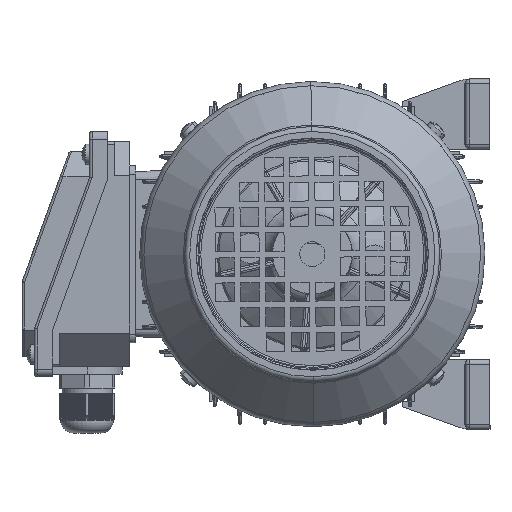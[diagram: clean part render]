
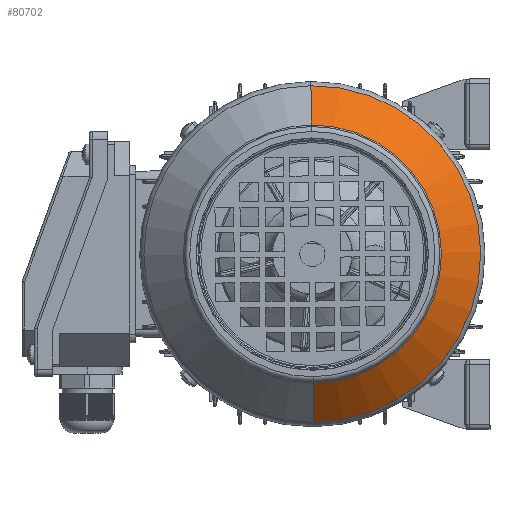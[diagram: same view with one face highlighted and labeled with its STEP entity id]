
A CAD part, left-side view. The second image highlights one B-rep face of the part: STEP entity #80702.
In plain terms, the highlighted conical face has half-angle 45 degrees and reference radius 51.586 mm.
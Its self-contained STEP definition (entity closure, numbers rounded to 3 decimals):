
#756 = VERTEX_POINT ( 'NONE', #99129 ) ;
#8583 = VERTEX_POINT ( 'NONE', #15703 ) ;
#12018 = VERTEX_POINT ( 'NONE', #54206 ) ;
#15703 = CARTESIAN_POINT ( 'NONE',  ( -97.74, -2.323, 67.284 ) ) ;
#20699 = CONICAL_SURFACE ( 'NONE', #132378, 51.586, 0.785 ) ;
#23112 = DIRECTION ( 'NONE',  ( 0., -0.008, -1. ) ) ;
#29218 = CIRCLE ( 'NONE', #122349, 51.586 ) ;
#30303 = ORIENTED_EDGE ( 'NONE', *, *, #50259, .T. ) ;
#30825 = DIRECTION ( 'NONE',  ( 0., -0.008, -1. ) ) ;
#44021 = DIRECTION ( 'NONE',  ( 0.707, -0.006, -0.707 ) ) ;
#50259 = EDGE_CURVE ( 'NONE', #53347, #12018, #144008, .T. ) ;
#52706 = ORIENTED_EDGE ( 'NONE', *, *, #116749, .F. ) ;
#53347 = VERTEX_POINT ( 'NONE', #160056 ) ;
#54206 = CARTESIAN_POINT ( 'NONE',  ( -97.74, -3.402, -67.284 ) ) ;
#55128 = CIRCLE ( 'NONE', #105641, 67.287 ) ;
#61983 = ORIENTED_EDGE ( 'NONE', *, *, #64927, .F. ) ;
#64927 = EDGE_CURVE ( 'NONE', #8583, #12018, #55128, .T. ) ;
#72300 = FACE_OUTER_BOUND ( 'NONE', #94134, .T. ) ;
#80702 = ADVANCED_FACE ( 'NONE', ( #72300 ), #20699, .T. ) ;
#92094 = LINE ( 'NONE', #115502, #150525 ) ;
#94134 = EDGE_LOOP ( 'NONE', ( #52706, #123269, #30303, #61983 ) ) ;
#99129 = CARTESIAN_POINT ( 'NONE',  ( -113.441, -2.449, 51.584 ) ) ;
#103465 = EDGE_CURVE ( 'NONE', #756, #53347, #29218, .T. ) ;
#104630 = DIRECTION ( 'NONE',  ( 0.707, 0.006, 0.707 ) ) ;
#105641 = AXIS2_PLACEMENT_3D ( 'NONE', #131637, #119167, #30825 ) ;
#115234 = CARTESIAN_POINT ( 'NONE',  ( -113.441, -2.862, 0. ) ) ;
#115502 = CARTESIAN_POINT ( 'NONE',  ( -113.441, -2.449, 51.584 ) ) ;
#116749 = EDGE_CURVE ( 'NONE', #756, #8583, #92094, .T. ) ;
#119167 = DIRECTION ( 'NONE',  ( 1., 0., 0. ) ) ;
#122349 = AXIS2_PLACEMENT_3D ( 'NONE', #115234, #139393, #128540 ) ;
#123269 = ORIENTED_EDGE ( 'NONE', *, *, #103465, .T. ) ;
#128540 = DIRECTION ( 'NONE',  ( 0., -0.008, -1. ) ) ;
#131637 = CARTESIAN_POINT ( 'NONE',  ( -97.74, -2.862, 0. ) ) ;
#132378 = AXIS2_PLACEMENT_3D ( 'NONE', #163085, #160612, #23112 ) ;
#139393 = DIRECTION ( 'NONE',  ( 1., 0., 0. ) ) ;
#144008 = LINE ( 'NONE', #158114, #163041 ) ;
#150525 = VECTOR ( 'NONE', #104630, 1000. ) ;
#158114 = CARTESIAN_POINT ( 'NONE',  ( -113.441, -3.276, -51.584 ) ) ;
#160056 = CARTESIAN_POINT ( 'NONE',  ( -113.441, -3.276, -51.584 ) ) ;
#160612 = DIRECTION ( 'NONE',  ( 1., 0., 0. ) ) ;
#163041 = VECTOR ( 'NONE', #44021, 1000. ) ;
#163085 = CARTESIAN_POINT ( 'NONE',  ( -113.441, -2.862, 0. ) ) ;
